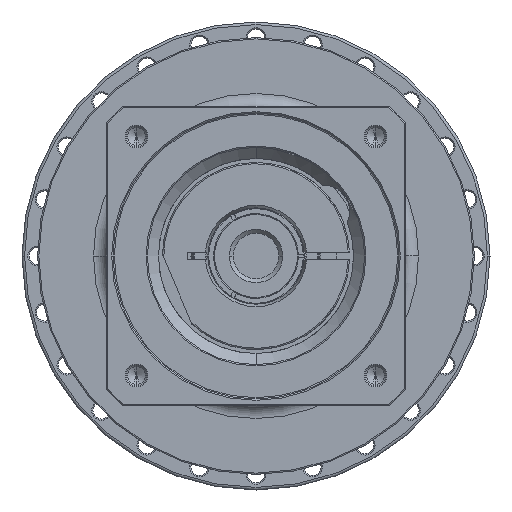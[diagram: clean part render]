
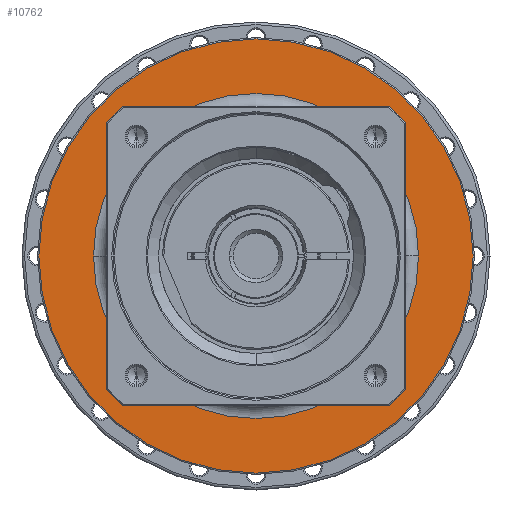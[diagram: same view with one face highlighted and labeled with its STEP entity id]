
A CAD part, left-side view. The second image highlights one B-rep face of the part: STEP entity #10762.
In plain terms, the highlighted planar face has unit normal (-1, 0, 0) as drawn and (1, 0, 0) by its records, which use the part's own axes.
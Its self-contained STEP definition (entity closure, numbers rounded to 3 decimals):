
#10241=CARTESIAN_POINT('',(-21.,0.,0.));
#10242=DIRECTION('',(-1.,0.,0.));
#10243=DIRECTION('',(0.,-1.,0.));
#10244=AXIS2_PLACEMENT_3D('',#10241,#10242,#10243);
#10246=CARTESIAN_POINT('',(-21.,0.,0.));
#10247=DIRECTION('',(-1.,0.,0.));
#10248=DIRECTION('',(0.,1.,0.));
#10249=AXIS2_PLACEMENT_3D('',#10246,#10247,#10248);
#10251=CARTESIAN_POINT('',(-21.,0.,0.));
#10252=DIRECTION('',(-1.,0.,0.));
#10253=DIRECTION('',(0.,-1.,0.));
#10254=AXIS2_PLACEMENT_3D('',#10251,#10252,#10253);
#10256=CARTESIAN_POINT('',(-21.,0.,0.));
#10257=DIRECTION('',(-1.,0.,0.));
#10258=DIRECTION('',(0.,1.,0.));
#10259=AXIS2_PLACEMENT_3D('',#10256,#10257,#10258);
#10325=CARTESIAN_POINT('',(-21.,-83.5,0.));
#10326=CARTESIAN_POINT('',(-21.,83.5,0.));
#10327=VERTEX_POINT('',#10325);
#10328=VERTEX_POINT('',#10326);
#10349=CARTESIAN_POINT('',(-21.,-62.5,0.));
#10350=CARTESIAN_POINT('',(-21.,62.5,0.));
#10351=VERTEX_POINT('',#10349);
#10352=VERTEX_POINT('',#10350);
#10747=CARTESIAN_POINT('',(-21.,0.,0.));
#10748=DIRECTION('',(1.,0.,0.));
#10749=DIRECTION('',(0.,-1.,0.));
#10750=AXIS2_PLACEMENT_3D('',#10747,#10748,#10749);
#10751=PLANE('',#10750);
#10752=ORIENTED_EDGE('',*,*,#10688,.T.);
#10753=ORIENTED_EDGE('',*,*,#10703,.T.);
#10754=EDGE_LOOP('',(#10752,#10753));
#10755=FACE_OUTER_BOUND('',#10754,.F.);
#10757=ORIENTED_EDGE('',*,*,#10756,.F.);
#10759=ORIENTED_EDGE('',*,*,#10758,.F.);
#10760=EDGE_LOOP('',(#10757,#10759));
#10761=FACE_BOUND('',#10760,.F.);
#10762=ADVANCED_FACE('',(#10755,#10761),#10751,.T.);
#10245=CIRCLE('',#10244,62.5);
#10250=CIRCLE('',#10249,62.5);
#10255=CIRCLE('',#10254,83.5);
#10260=CIRCLE('',#10259,83.5);
#10688=EDGE_CURVE('',#10327,#10328,#10255,.T.);
#10703=EDGE_CURVE('',#10328,#10327,#10260,.T.);
#10756=EDGE_CURVE('',#10351,#10352,#10245,.T.);
#10758=EDGE_CURVE('',#10352,#10351,#10250,.T.);
